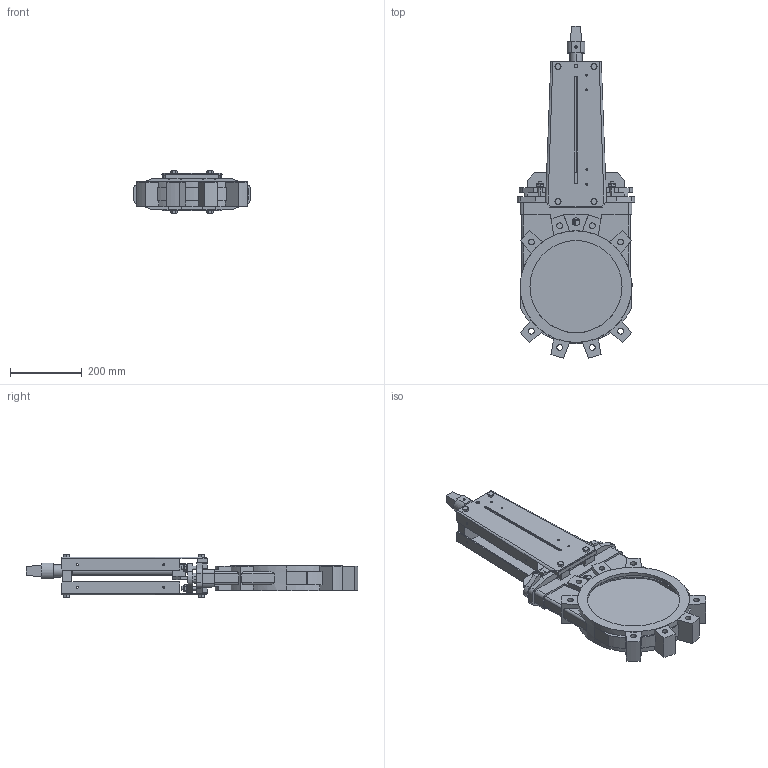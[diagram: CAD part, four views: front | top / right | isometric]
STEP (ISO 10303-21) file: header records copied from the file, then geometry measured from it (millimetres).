
FILE_DESCRIPTION (( 'STEP AP203' ), '1' );
FILE_NAME ('VG S N DN250.STEP', '2010-05-04T07:09:02', ( 'farex' ), ( '' ), 'SwSTEP 2.0', 'SolidWorks 2009', '' );
FILE_SCHEMA (( 'CONFIG_CONTROL_DESIGN' ));
Length unit declared in the file: millimetre
Products named in the file (1): VG S N DN250
Bounding box: 326 x 922.12 x 117.8 mm (x, y, z)
Volume: 6320256.9 mm3; surface area: 965830.7 mm2
Topology: 1 solids, 7 shells, 778 faces, 2061 edges, 1344 vertices
Faces by surface type: plane 434, cylinder 221, cone 77, bspline 34, torus 12
Entity records: 26976 total; most frequent: CARTESIAN_POINT 7577, ORIENTED_EDGE 4122, DIRECTION 3873, EDGE_CURVE 2061, VERTEX_POINT 1344, AXIS2_PLACEMENT_3D 1318, VECTOR 1237, LINE 1237
